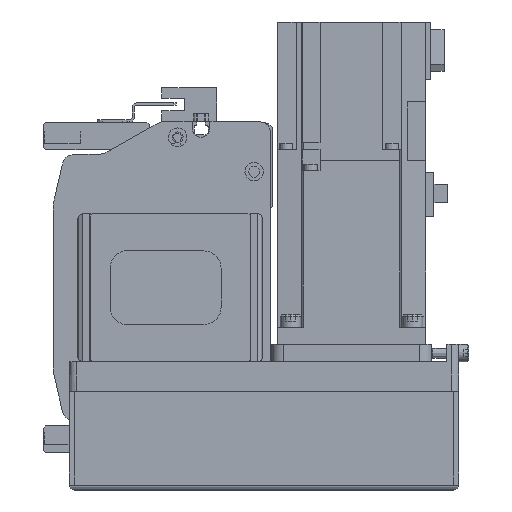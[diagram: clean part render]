
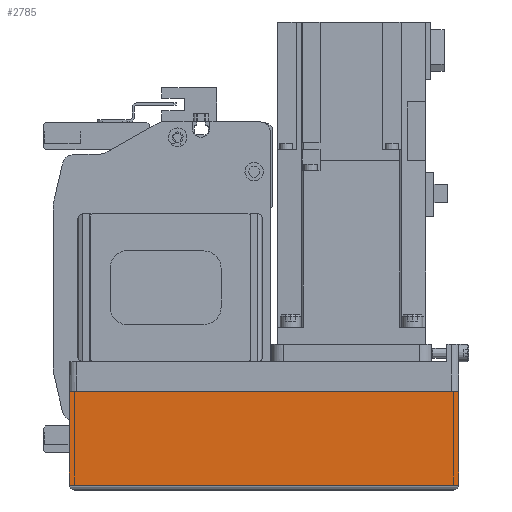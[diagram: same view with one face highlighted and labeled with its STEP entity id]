
A CAD part, left-side view. The second image highlights one B-rep face of the part: STEP entity #2785.
In plain terms, the highlighted planar face has unit normal (-1, 0, 0) as drawn and (0, 1, 0) by its records, which use the part's own axes.
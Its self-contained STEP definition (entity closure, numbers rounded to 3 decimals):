
#2785 = ADVANCED_FACE( '', ( #6127 ), #6128, .T. );
#6127 = FACE_OUTER_BOUND( '', #9941, .T. );
#6128 = PLANE( '', #9942 );
#9941 = EDGE_LOOP( '', ( #17875, #17876, #17877, #17878 ) );
#9942 = AXIS2_PLACEMENT_3D( '', #17879, #17880, #17881 );
#17875 = ORIENTED_EDGE( '', *, *, #24362, .F. );
#17876 = ORIENTED_EDGE( '', *, *, #22102, .F. );
#17877 = ORIENTED_EDGE( '', *, *, #24363, .T. );
#17878 = ORIENTED_EDGE( '', *, *, #24217, .T. );
#17879 = CARTESIAN_POINT( '', ( -158., 39., -50. ) );
#17880 = DIRECTION( '', ( 0., 1., 0. ) );
#17881 = DIRECTION( '', ( 0., 0., 1. ) );
#22102 = EDGE_CURVE( '', #26650, #26653, #26654, .T. );
#24217 = EDGE_CURVE( '', #29825, #29346, #29826, .T. );
#24362 = EDGE_CURVE( '', #26653, #29346, #30001, .T. );
#24363 = EDGE_CURVE( '', #26650, #29825, #30002, .T. );
#26650 = VERTEX_POINT( '', #33189 );
#26653 = VERTEX_POINT( '', #33192 );
#26654 = LINE( '', #33193, #33194 );
#29346 = VERTEX_POINT( '', #37569 );
#29825 = VERTEX_POINT( '', #38324 );
#29826 = LINE( '', #38325, #38326 );
#30001 = LINE( '', #38626, #38627 );
#30002 = LINE( '', #38628, #38629 );
#33189 = CARTESIAN_POINT( '', ( -158., 39., -50. ) );
#33192 = CARTESIAN_POINT( '', ( 0., 39., -50. ) );
#33193 = CARTESIAN_POINT( '', ( -158., 39., -50. ) );
#33194 = VECTOR( '', #41170, 1000. );
#37569 = CARTESIAN_POINT( '', ( 0., 39., -12.1 ) );
#38324 = CARTESIAN_POINT( '', ( -158., 39., -12.1 ) );
#38325 = CARTESIAN_POINT( '', ( -158., 39., -12.1 ) );
#38326 = VECTOR( '', #43618, 1000. );
#38626 = CARTESIAN_POINT( '', ( 0., 39., -50. ) );
#38627 = VECTOR( '', #43748, 1000. );
#38628 = CARTESIAN_POINT( '', ( -158., 39., -50. ) );
#38629 = VECTOR( '', #43749, 1000. );
#41170 = DIRECTION( '', ( 1., 0., 0. ) );
#43618 = DIRECTION( '', ( 1., 0., 0. ) );
#43748 = DIRECTION( '', ( 0., 0., 1. ) );
#43749 = DIRECTION( '', ( 0., 0., 1. ) );
